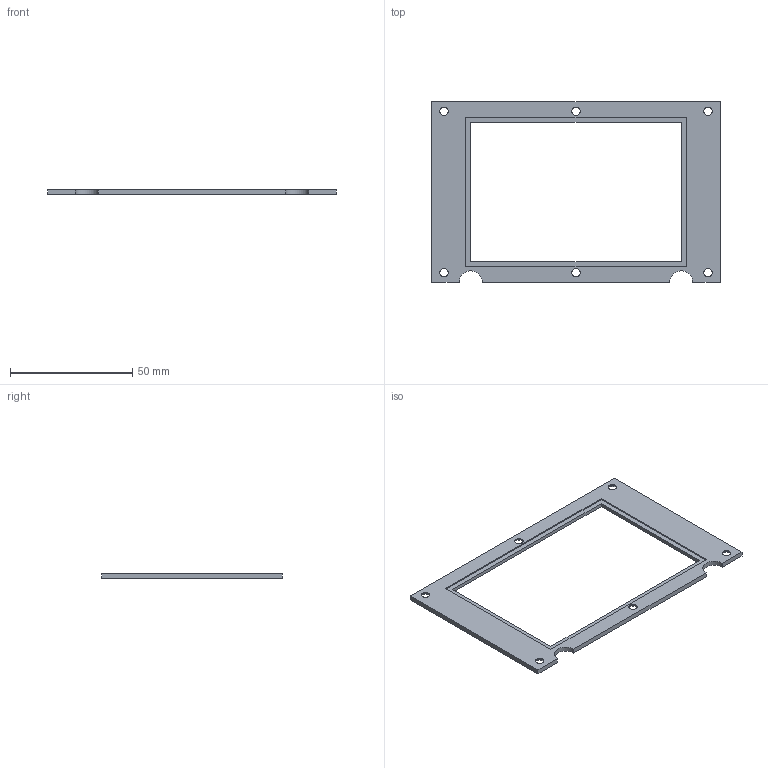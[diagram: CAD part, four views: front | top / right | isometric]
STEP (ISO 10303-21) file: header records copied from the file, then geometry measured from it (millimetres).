
FILE_DESCRIPTION(/* description */ (''),/* implementation_level */ '2;1');
FILE_NAME(/* name */ '',/* time_stamp */ '2026-05-08T17:20:15+08:00',/* author */ ('32769'),/* organization */ (''),/* preprocessor_version */ 'ST-DEVELOPER v20',/* originating_system */ 'Autodesk Inventor 2025',/* authorisation */ '');
FILE_SCHEMA (('AUTOMOTIVE_DESIGN { 1 0 10303 214 3 1 1 }'));
Length unit declared in the file: millimetre
Products named in the file (1): 1521249-8-0034 Ò»¼¶´°Æ¬
Ñ¹°åÕýÃæ
Bounding box: 118 x 74 x 2 mm (x, y, z)
Volume: 7007.5 mm3; surface area: 8867.1 mm2
Topology: 1 solids, 1 shells, 31 faces, 78 edges, 50 vertices
Faces by surface type: plane 17, cylinder 8, cone 6
Full cylindrical faces by diameter (mm): 3.4 x6
Entity records: 997 total; most frequent: DIRECTION 164, CARTESIAN_POINT 160, ORIENTED_EDGE 156, EDGE_CURVE 78, LINE 56, VECTOR 56, AXIS2_PLACEMENT_3D 54, VERTEX_POINT 50
